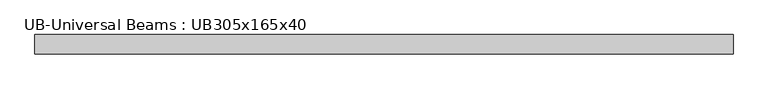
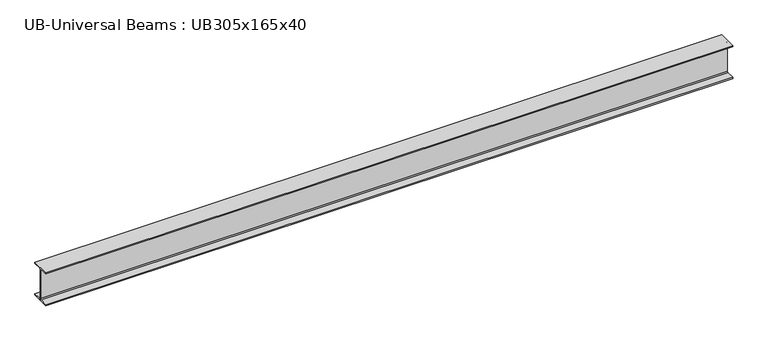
"""IFC4 building model written with IfcOpenShell, lengths in millimetres: beam geometry, UB-Universal Beams : UB305x165x40."""

from ifc_helpers import new_model, si_unit, point, frame, frame_2d, origin, place, context, project, spatial, polyline, circle_curve, trimmed, segment, composite_curve, outline, extrude, source, transform, mapped, element, save


def ub_universal_beams_ub305x165x40_767d1929(model_context):
    return source(origin(), model_context, "Body", "SweptSolid", [
        extrude(outline(composite_curve([segment(polyline([(82.5, -141.5), (82.5, -151.7), (-82.5, -151.7), (-82.5, -141.5), (-11.9, -141.5)]), True, "CONTINUOUS"), segment(trimmed(circle_curve(frame_2d((-11.9, -132.6)), 8.9), [point((-11.9, -141.5))], [point((-3.0, -132.6))], True, "CARTESIAN"), True, "CONTINUOUS"), segment(polyline([(-3.0, -132.6), (-3.0, 132.6)]), True, "CONTINUOUS"), segment(trimmed(circle_curve(frame_2d((-11.9, 132.6)), 8.9), [point((-3.0, 132.6))], [point((-11.9, 141.5))], True, "CARTESIAN"), True, "CONTINUOUS"), segment(polyline([(-11.9, 141.5), (-82.5, 141.5), (-82.5, 151.7), (82.5, 151.7), (82.5, 141.5), (11.9, 141.5)]), True, "CONTINUOUS"), segment(trimmed(circle_curve(frame_2d((11.9, 132.6)), 8.9), [point((11.9, 141.5))], [point((3.0, 132.6))], True, "CARTESIAN"), True, "CONTINUOUS"), segment(polyline([(3.0, 132.6), (3.0, -132.6)]), True, "CONTINUOUS"), segment(trimmed(circle_curve(frame_2d((11.9, -132.6)), 8.9), [point((3.0, -132.6))], [point((11.9, -141.5))], True, "CARTESIAN"), True, "CONTINUOUS"), segment(polyline([(11.9, -141.5), (82.5, -141.5)]), True, "CONTINUOUS")], self_intersect=False)), frame((-2963.9, 0.0, 0.0), z_axis=(1.0, 0.0, 0.0), x_axis=(0.0, 1.0, 0.0)), (0.0, 0.0, 1.0), 6005.4),
    ])


if __name__ == "__main__":
    model = new_model("IFC4")
    model_context = context("Model", 3, world=origin())
    ifc_project = project(units=[si_unit("LENGTHUNIT", "METRE", prefix="MILLI")], contexts=[model_context])
    site = spatial("IfcSite", under=ifc_project)
    building = spatial("IfcBuilding", under=site)
    placement = place(None, origin())
    ub_universal_beams_ub305x165x40_shape = ub_universal_beams_ub305x165x40_767d1929(model_context)
    element("IfcBeam", 1, ObjectType="UB-Universal Beams : UB305x165x40", at=placement, inside=building, context=model_context, shape_type="MappedRepresentation", body=[
        mapped(ub_universal_beams_ub305x165x40_shape, transform((0.0, 0.0, 0.0), x_axis=(1.0, 0.0, 0.0), y_axis=(0.0, 1.0, 0.0), z_axis=(0.0, 0.0, 1.0))),
    ])
    save(model, "model.ifc")
